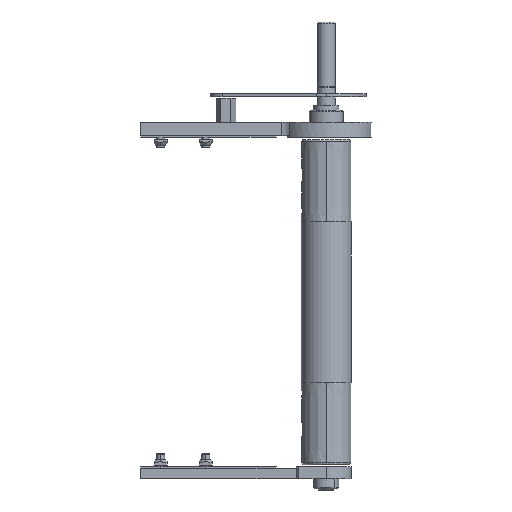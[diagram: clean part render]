
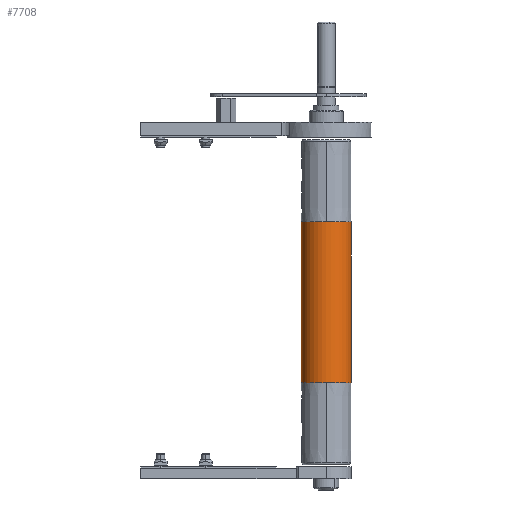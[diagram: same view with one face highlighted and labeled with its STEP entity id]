
A CAD part, front view. The second image highlights one B-rep face of the part: STEP entity #7708.
In plain terms, the highlighted cylindrical face has radius 25 mm (diameter 50 mm), a partial arc.
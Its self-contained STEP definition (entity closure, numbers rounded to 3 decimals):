
#964 = DIRECTION ( 'NONE',  ( 0., 0., -1. ) ) ;
#979 = DIRECTION ( 'NONE',  ( 0., 1., 0. ) ) ;
#983 = CARTESIAN_POINT ( 'NONE',  ( 0., 0., -80. ) ) ;
#1011 = DIRECTION ( 'NONE',  ( 0., 0., -1. ) ) ;
#1014 = DIRECTION ( 'NONE',  ( 0., 0., -1. ) ) ;
#1024 = CARTESIAN_POINT ( 'NONE',  ( 0., 0., -80. ) ) ;
#1030 = CARTESIAN_POINT ( 'NONE',  ( 25., 0., 160. ) ) ;
#1035 = CARTESIAN_POINT ( 'NONE',  ( -25., 0., 160. ) ) ;
#1056 = DIRECTION ( 'NONE',  ( 0., 0., -1. ) ) ;
#1071 = DIRECTION ( 'NONE',  ( 0., 0., -1. ) ) ;
#1082 = DIRECTION ( 'NONE',  ( 0., 1., 0. ) ) ;
#1126 = DIRECTION ( 'NONE',  ( 0., 1., 0. ) ) ;
#1151 = CARTESIAN_POINT ( 'NONE',  ( 0., 0., 80. ) ) ;
#1164 = DIRECTION ( 'NONE',  ( 0., 1., 0. ) ) ;
#1171 = CARTESIAN_POINT ( 'NONE',  ( 0., 0., 80. ) ) ;
#1178 = DIRECTION ( 'NONE',  ( 0., 0., -1. ) ) ;
#1502 = DIRECTION ( 'NONE',  ( 1., 0., 0. ) ) ;
#1506 = DIRECTION ( 'NONE',  ( 0., 0., -1. ) ) ;
#1507 = CARTESIAN_POINT ( 'NONE',  ( 0., 0., 160. ) ) ;
#2149 = CARTESIAN_POINT ( 'NONE',  ( 25., 0., 80. ) ) ;
#2297 = CARTESIAN_POINT ( 'NONE',  ( -25., 0., -80. ) ) ;
#2446 = CARTESIAN_POINT ( 'NONE',  ( 25., 0., -80. ) ) ;
#2449 = CARTESIAN_POINT ( 'NONE',  ( 0., -25., 80. ) ) ;
#2451 = CARTESIAN_POINT ( 'NONE',  ( -25., 0., 80. ) ) ;
#2463 = CARTESIAN_POINT ( 'NONE',  ( 0., -25., -80. ) ) ;
#3417 = FACE_OUTER_BOUND ( 'NONE', #7401, .T. ) ;
#3420 = CYLINDRICAL_SURFACE ( 'NONE', #9071, 25. ) ;
#5111 = EDGE_CURVE ( 'NONE', #10237, #10996, #7954, .T. ) ;
#5124 = EDGE_CURVE ( 'NONE', #10237, #10993, #7967, .T. ) ;
#5125 = EDGE_CURVE ( 'NONE', #11010, #10786, #7972, .T. ) ;
#5126 = EDGE_CURVE ( 'NONE', #10998, #10786, #8034, .T. ) ;
#5127 = EDGE_CURVE ( 'NONE', #10996, #10998, #7998, .T. ) ;
#5170 = EDGE_CURVE ( 'NONE', #10993, #11010, #7980, .T. ) ;
#6001 = ORIENTED_EDGE ( 'NONE', *, *, #5111, .T. ) ;
#6003 = ORIENTED_EDGE ( 'NONE', *, *, #5127, .T. ) ;
#6004 = ORIENTED_EDGE ( 'NONE', *, *, #5125, .F. ) ;
#6005 = ORIENTED_EDGE ( 'NONE', *, *, #5126, .T. ) ;
#6017 = ORIENTED_EDGE ( 'NONE', *, *, #5170, .F. ) ;
#6020 = ORIENTED_EDGE ( 'NONE', *, *, #5124, .F. ) ;
#7401 = EDGE_LOOP ( 'NONE', ( #6003, #6005, #6004, #6017, #6020, #6001 ) ) ;
#7708 = ADVANCED_FACE ( 'NONE', ( #3417 ), #3420, .T. ) ;
#7954 = CIRCLE ( 'NONE', #8622, 25. ) ;
#7966 = VECTOR ( 'NONE', #1014, 1000. ) ;
#7967 = LINE ( 'NONE', #1030, #7966 ) ;
#7972 = CIRCLE ( 'NONE', #8875, 25. ) ;
#7980 = CIRCLE ( 'NONE', #8801, 25. ) ;
#7984 = VECTOR ( 'NONE', #1011, 1000. ) ;
#7998 = CIRCLE ( 'NONE', #8874, 25. ) ;
#8034 = LINE ( 'NONE', #1035, #7984 ) ;
#8622 = AXIS2_PLACEMENT_3D ( 'NONE', #1151, #1071, #1082 ) ;
#8801 = AXIS2_PLACEMENT_3D ( 'NONE', #983, #1178, #1126 ) ;
#8874 = AXIS2_PLACEMENT_3D ( 'NONE', #1171, #964, #1164 ) ;
#8875 = AXIS2_PLACEMENT_3D ( 'NONE', #1024, #1056, #979 ) ;
#9071 = AXIS2_PLACEMENT_3D ( 'NONE', #1507, #1506, #1502 ) ;
#10237 = VERTEX_POINT ( 'NONE', #2149 ) ;
#10786 = VERTEX_POINT ( 'NONE', #2297 ) ;
#10993 = VERTEX_POINT ( 'NONE', #2446 ) ;
#10996 = VERTEX_POINT ( 'NONE', #2449 ) ;
#10998 = VERTEX_POINT ( 'NONE', #2451 ) ;
#11010 = VERTEX_POINT ( 'NONE', #2463 ) ;
